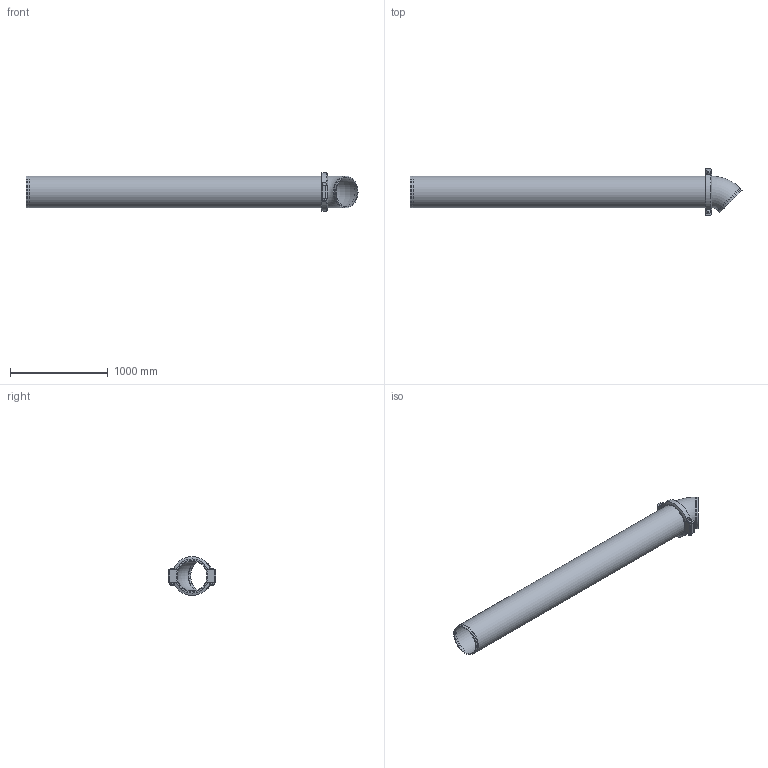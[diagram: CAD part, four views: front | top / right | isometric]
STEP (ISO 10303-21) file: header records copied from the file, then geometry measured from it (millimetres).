
FILE_DESCRIPTION(/* description */ ('VIC LONG RUN FITTING No R24 (OGS)','CAx-IF Rec.Pracs.---Representation and Presentation of Product Manufacturing Information (PMI)---4.0---2014-10-13'),/* implementation_level */ '2;1');
FILE_NAME(/* name */ 'C:\Users\Vjadhav\AppData\Roaming\Autodesk\ApplicationPlugins\Back Up\Victaulic_IPS_Long Run Fittings_No R24 (OGS)\Victaulic_IPS_Long Run Fittings_No R24 (OGS)_12 (300).stp',/* time_stamp */ '2020-10-13T19:14:07+06:00',/* author */ ('Vjadhav'),/* organization */ ('Victaulic'),/* preprocessor_version */ 'ST-DEVELOPER v17.2',/* originating_system */ 'Autodesk Inventor 2019',/* authorisation */ '');
FILE_SCHEMA (('AP242_MANAGED_MODEL_BASED_3D_ENGINEERING_MIM_LF { 1 0 10303 442 1 1 4 }'));
Length unit declared in the file: inch
Products named in the file (4): R24-12.0; 011-12.0; Pipe_R13-12.0; 077-12.0
Assembly tree (3 placements, depth 2):
  R24-12.0
    011-12.0
    Pipe_R13-12.0
    077-12.0
Bounding box: 3393.44 x 488.95 x 397 mm (x, y, z)
Volume: 34352654.4 mm3; surface area: 6904802.6 mm2
Topology: 3 solids, 5 shells, 87 faces, 209 edges, 148 vertices
Faces by surface type: plane 48, cylinder 31, cone 4, torus 2, bspline 2
Full cylindrical faces by diameter (mm): 25.4 x4, 27.432 x2, 304.8 x3, 314.96 x1, 318.287 x4, 323.85 x7
Entity records: 3047 total; most frequent: CARTESIAN_POINT 659, DIRECTION 473, ORIENTED_EDGE 418, EDGE_CURVE 209, AXIS2_PLACEMENT_3D 192, VERTEX_POINT 148, EDGE_LOOP 113, CIRCLE 100
